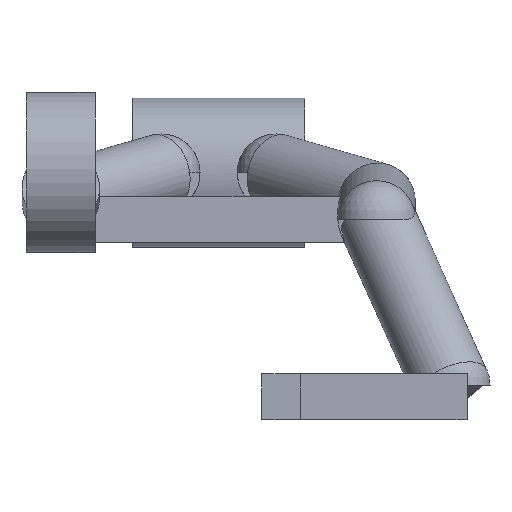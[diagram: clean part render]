
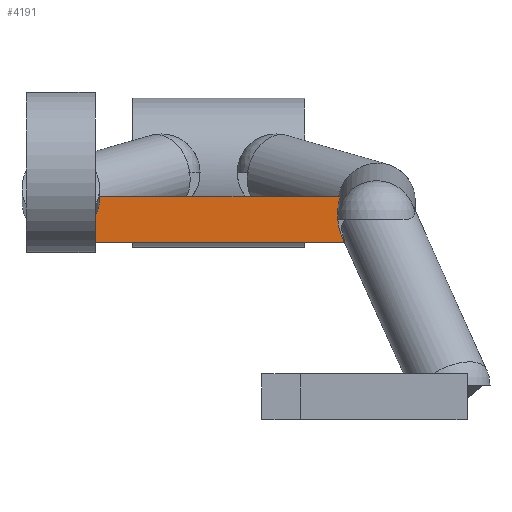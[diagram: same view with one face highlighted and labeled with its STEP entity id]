
A CAD part, front view. The second image highlights one B-rep face of the part: STEP entity #4191.
In plain terms, the highlighted planar face has unit normal (0, -1, 0).
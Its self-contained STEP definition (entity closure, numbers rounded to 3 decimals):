
#1174 = CYLINDRICAL_SURFACE('',#1175,1.35);
#1175 = AXIS2_PLACEMENT_3D('',#1176,#1177,#1178);
#1176 = CARTESIAN_POINT('',(5.5,37.,17.38));
#1177 = DIRECTION('',(-0.,0.995,0.103));
#1178 = DIRECTION('',(-0.,-0.103,0.995));
#3047 = VERTEX_POINT('',#3048);
#3048 = CARTESIAN_POINT('',(4.723,40.,16.58));
#3067 = PLANE('',#3068);
#3068 = AXIS2_PLACEMENT_3D('',#3069,#3070,#3071);
#3069 = CARTESIAN_POINT('',(4.75,40.,16.58));
#3070 = DIRECTION('',(0.,0.,1.));
#3071 = DIRECTION('',(1.,0.,0.));
#3083 = EDGE_CURVE('',#3084,#3047,#3086,.T.);
#3084 = VERTEX_POINT('',#3085);
#3085 = CARTESIAN_POINT('',(4.241,40.,18.18));
#3086 = SURFACE_CURVE('',#3087,(#3092,#3104),.PCURVE_S1.);
#3087 = ELLIPSE('',#3088,1.357,1.35);
#3088 = AXIS2_PLACEMENT_3D('',#3089,#3090,#3091);
#3089 = CARTESIAN_POINT('',(5.5,40.,17.69));
#3090 = DIRECTION('',(0.,-1.,0.));
#3091 = DIRECTION('',(-0.,-0.,1.));
#3092 = PCURVE('',#1174,#3093);
#3093 = DEFINITIONAL_REPRESENTATION('',(#3094),#3103);
#3094 = B_SPLINE_CURVE_WITH_KNOTS('',7,(#3095,#3096,#3097,#3098,#3099,
    #3100,#3101,#3102),.UNSPECIFIED.,.F.,.F.,(8,8),(1.071,
    2.781),.PIECEWISE_BEZIER_KNOTS.);
#3095 = CARTESIAN_POINT('',(-1.071,3.083));
#3096 = CARTESIAN_POINT('',(-1.316,3.053));
#3097 = CARTESIAN_POINT('',(-1.56,3.018));
#3098 = CARTESIAN_POINT('',(-1.804,2.982));
#3099 = CARTESIAN_POINT('',(-2.048,2.948));
#3100 = CARTESIAN_POINT('',(-2.293,2.919));
#3101 = CARTESIAN_POINT('',(-2.537,2.897));
#3102 = CARTESIAN_POINT('',(-2.781,2.885));
#3103 = ( GEOMETRIC_REPRESENTATION_CONTEXT(2) 
PARAMETRIC_REPRESENTATION_CONTEXT() REPRESENTATION_CONTEXT('2D SPACE',''
  ) );
#3104 = PCURVE('',#3105,#3110);
#3105 = PLANE('',#3106);
#3106 = AXIS2_PLACEMENT_3D('',#3107,#3108,#3109);
#3107 = CARTESIAN_POINT('',(4.75,40.,16.58));
#3108 = DIRECTION('',(-0.,1.,0.));
#3109 = DIRECTION('',(0.,0.,-1.));
#3110 = DEFINITIONAL_REPRESENTATION('',(#3111),#3119);
#3111 = ( BOUNDED_CURVE() B_SPLINE_CURVE(2,(#3112,#3113,#3114,#3115,
#3116,#3117,#3118),.UNSPECIFIED.,.T.,.F.) B_SPLINE_CURVE_WITH_KNOTS((1,2
    ,2,2,2,1),(-2.094,0.,2.094,4.189,
6.283,8.378),.UNSPECIFIED.) CURVE() 
GEOMETRIC_REPRESENTATION_ITEM() RATIONAL_B_SPLINE_CURVE((1.,0.5,1.,0.5,
1.,0.5,1.)) REPRESENTATION_ITEM('') );
#3112 = CARTESIAN_POINT('',(-2.467,-0.75));
#3113 = CARTESIAN_POINT('',(-2.467,1.588));
#3114 = CARTESIAN_POINT('',(-0.431,0.419));
#3115 = CARTESIAN_POINT('',(1.604,-0.75));
#3116 = CARTESIAN_POINT('',(-0.431,-1.919));
#3117 = CARTESIAN_POINT('',(-2.467,-3.088));
#3118 = CARTESIAN_POINT('',(-2.467,-0.75));
#3119 = ( GEOMETRIC_REPRESENTATION_CONTEXT(2) 
PARAMETRIC_REPRESENTATION_CONTEXT() REPRESENTATION_CONTEXT('2D SPACE',''
  ) );
#3141 = PLANE('',#3142);
#3142 = AXIS2_PLACEMENT_3D('',#3143,#3144,#3145);
#3143 = CARTESIAN_POINT('',(4.75,40.,18.18));
#3144 = DIRECTION('',(0.,0.,1.));
#3145 = DIRECTION('',(1.,0.,0.));
#4120 = EDGE_CURVE('',#3047,#4121,#4123,.T.);
#4121 = VERTEX_POINT('',#4122);
#4122 = CARTESIAN_POINT('',(-4.75,40.,16.58));
#4123 = SURFACE_CURVE('',#4124,(#4128,#4135),.PCURVE_S1.);
#4124 = LINE('',#4125,#4126);
#4125 = CARTESIAN_POINT('',(4.75,40.,16.58));
#4126 = VECTOR('',#4127,1.);
#4127 = DIRECTION('',(-1.,-0.,0.));
#4128 = PCURVE('',#3067,#4129);
#4129 = DEFINITIONAL_REPRESENTATION('',(#4130),#4134);
#4130 = LINE('',#4131,#4132);
#4131 = CARTESIAN_POINT('',(0.,-0.));
#4132 = VECTOR('',#4133,1.);
#4133 = DIRECTION('',(-1.,0.));
#4134 = ( GEOMETRIC_REPRESENTATION_CONTEXT(2) 
PARAMETRIC_REPRESENTATION_CONTEXT() REPRESENTATION_CONTEXT('2D SPACE',''
  ) );
#4135 = PCURVE('',#3105,#4136);
#4136 = DEFINITIONAL_REPRESENTATION('',(#4137),#4141);
#4137 = LINE('',#4138,#4139);
#4138 = CARTESIAN_POINT('',(-0.,-0.));
#4139 = VECTOR('',#4140,1.);
#4140 = DIRECTION('',(-0.,1.));
#4141 = ( GEOMETRIC_REPRESENTATION_CONTEXT(2) 
PARAMETRIC_REPRESENTATION_CONTEXT() REPRESENTATION_CONTEXT('2D SPACE',''
  ) );
#4159 = PLANE('',#4160);
#4160 = AXIS2_PLACEMENT_3D('',#4161,#4162,#4163);
#4161 = CARTESIAN_POINT('',(-4.75,40.,16.58));
#4162 = DIRECTION('',(-1.,-0.,0.));
#4163 = DIRECTION('',(0.,0.,-1.));
#4191 = ADVANCED_FACE('',(#4192),#3105,.F.);
#4192 = FACE_BOUND('',#4193,.T.);
#4193 = EDGE_LOOP('',(#4194,#4195,#4196,#4219,#4257));
#4194 = ORIENTED_EDGE('',*,*,#4120,.F.);
#4195 = ORIENTED_EDGE('',*,*,#3083,.F.);
#4196 = ORIENTED_EDGE('',*,*,#4197,.T.);
#4197 = EDGE_CURVE('',#3084,#4198,#4200,.T.);
#4198 = VERTEX_POINT('',#4199);
#4199 = CARTESIAN_POINT('',(-4.152,40.,18.18));
#4200 = SURFACE_CURVE('',#4201,(#4205,#4212),.PCURVE_S1.);
#4201 = LINE('',#4202,#4203);
#4202 = CARTESIAN_POINT('',(4.75,40.,18.18));
#4203 = VECTOR('',#4204,1.);
#4204 = DIRECTION('',(-1.,-0.,0.));
#4205 = PCURVE('',#3105,#4206);
#4206 = DEFINITIONAL_REPRESENTATION('',(#4207),#4211);
#4207 = LINE('',#4208,#4209);
#4208 = CARTESIAN_POINT('',(-1.6,-0.));
#4209 = VECTOR('',#4210,1.);
#4210 = DIRECTION('',(-0.,1.));
#4211 = ( GEOMETRIC_REPRESENTATION_CONTEXT(2) 
PARAMETRIC_REPRESENTATION_CONTEXT() REPRESENTATION_CONTEXT('2D SPACE',''
  ) );
#4212 = PCURVE('',#3141,#4213);
#4213 = DEFINITIONAL_REPRESENTATION('',(#4214),#4218);
#4214 = LINE('',#4215,#4216);
#4215 = CARTESIAN_POINT('',(0.,-0.));
#4216 = VECTOR('',#4217,1.);
#4217 = DIRECTION('',(-1.,0.));
#4218 = ( GEOMETRIC_REPRESENTATION_CONTEXT(2) 
PARAMETRIC_REPRESENTATION_CONTEXT() REPRESENTATION_CONTEXT('2D SPACE',''
  ) );
#4219 = ORIENTED_EDGE('',*,*,#4220,.F.);
#4220 = EDGE_CURVE('',#4221,#4198,#4223,.T.);
#4221 = VERTEX_POINT('',#4222);
#4222 = CARTESIAN_POINT('',(-4.75,40.,16.977));
#4223 = SURFACE_CURVE('',#4224,(#4229,#4240),.PCURVE_S1.);
#4224 = ELLIPSE('',#4225,1.351,1.35);
#4225 = AXIS2_PLACEMENT_3D('',#4226,#4227,#4228);
#4226 = CARTESIAN_POINT('',(-5.5,40.,18.1));
#4227 = DIRECTION('',(0.,-1.,0.));
#4228 = DIRECTION('',(-0.,-0.,-1.));
#4229 = PCURVE('',#3105,#4230);
#4230 = DEFINITIONAL_REPRESENTATION('',(#4231),#4239);
#4231 = ( BOUNDED_CURVE() B_SPLINE_CURVE(2,(#4232,#4233,#4234,#4235,
#4236,#4237,#4238),.UNSPECIFIED.,.T.,.F.) B_SPLINE_CURVE_WITH_KNOTS((1,2
    ,2,2,2,1),(-2.094,0.,2.094,4.189,
6.283,8.378),.UNSPECIFIED.) CURVE() 
GEOMETRIC_REPRESENTATION_ITEM() RATIONAL_B_SPLINE_CURVE((1.,0.5,1.,0.5,
1.,0.5,1.)) REPRESENTATION_ITEM('') );
#4232 = CARTESIAN_POINT('',(-0.169,10.25));
#4233 = CARTESIAN_POINT('',(-0.169,7.912));
#4234 = CARTESIAN_POINT('',(-2.195,9.081));
#4235 = CARTESIAN_POINT('',(-4.221,10.25));
#4236 = CARTESIAN_POINT('',(-2.195,11.419));
#4237 = CARTESIAN_POINT('',(-0.169,12.588));
#4238 = CARTESIAN_POINT('',(-0.169,10.25));
#4239 = ( GEOMETRIC_REPRESENTATION_CONTEXT(2) 
PARAMETRIC_REPRESENTATION_CONTEXT() REPRESENTATION_CONTEXT('2D SPACE',''
  ) );
#4240 = PCURVE('',#4241,#4246);
#4241 = CYLINDRICAL_SURFACE('',#4242,1.35);
#4242 = AXIS2_PLACEMENT_3D('',#4243,#4244,#4245);
#4243 = CARTESIAN_POINT('',(-5.5,28.,18.5));
#4244 = DIRECTION('',(-0.,0.999,-0.033));
#4245 = DIRECTION('',(-0.,0.033,0.999));
#4246 = DEFINITIONAL_REPRESENTATION('',(#4247),#4256);
#4247 = B_SPLINE_CURVE_WITH_KNOTS('',7,(#4248,#4249,#4250,#4251,#4252,
    #4253,#4254,#4255),.UNSPECIFIED.,.F.,.F.,(8,8),(6.136,
    8.033),.PIECEWISE_BEZIER_KNOTS.);
#4248 = CARTESIAN_POINT('',(-2.995,12.051));
#4249 = CARTESIAN_POINT('',(-3.266,12.053));
#4250 = CARTESIAN_POINT('',(-3.537,12.051));
#4251 = CARTESIAN_POINT('',(-3.808,12.045));
#4252 = CARTESIAN_POINT('',(-4.078,12.035));
#4253 = CARTESIAN_POINT('',(-4.349,12.023));
#4254 = CARTESIAN_POINT('',(-4.62,12.011));
#4255 = CARTESIAN_POINT('',(-4.891,11.999));
#4256 = ( GEOMETRIC_REPRESENTATION_CONTEXT(2) 
PARAMETRIC_REPRESENTATION_CONTEXT() REPRESENTATION_CONTEXT('2D SPACE',''
  ) );
#4257 = ORIENTED_EDGE('',*,*,#4258,.F.);
#4258 = EDGE_CURVE('',#4121,#4221,#4259,.T.);
#4259 = SURFACE_CURVE('',#4260,(#4264,#4271),.PCURVE_S1.);
#4260 = LINE('',#4261,#4262);
#4261 = CARTESIAN_POINT('',(-4.75,40.,16.58));
#4262 = VECTOR('',#4263,1.);
#4263 = DIRECTION('',(0.,0.,1.));
#4264 = PCURVE('',#3105,#4265);
#4265 = DEFINITIONAL_REPRESENTATION('',(#4266),#4270);
#4266 = LINE('',#4267,#4268);
#4267 = CARTESIAN_POINT('',(-0.,9.5));
#4268 = VECTOR('',#4269,1.);
#4269 = DIRECTION('',(-1.,0.));
#4270 = ( GEOMETRIC_REPRESENTATION_CONTEXT(2) 
PARAMETRIC_REPRESENTATION_CONTEXT() REPRESENTATION_CONTEXT('2D SPACE',''
  ) );
#4271 = PCURVE('',#4159,#4272);
#4272 = DEFINITIONAL_REPRESENTATION('',(#4273),#4277);
#4273 = LINE('',#4274,#4275);
#4274 = CARTESIAN_POINT('',(-0.,-0.));
#4275 = VECTOR('',#4276,1.);
#4276 = DIRECTION('',(-1.,-0.));
#4277 = ( GEOMETRIC_REPRESENTATION_CONTEXT(2) 
PARAMETRIC_REPRESENTATION_CONTEXT() REPRESENTATION_CONTEXT('2D SPACE',''
  ) );
